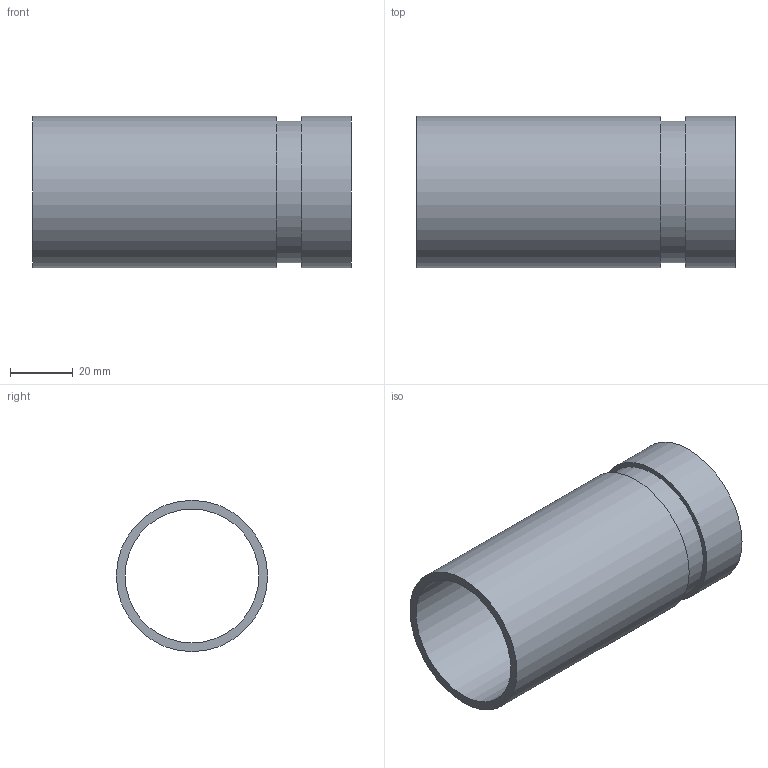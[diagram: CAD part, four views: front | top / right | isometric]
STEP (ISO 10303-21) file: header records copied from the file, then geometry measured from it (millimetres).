
FILE_DESCRIPTION(/* description */ ('VIC TRANSITION NIPPLE STYLE P577 (G X T)','CAx-IF Rec.Pracs.---Representation and Presentation of Product Manufacturing Information (PMI)---4.0---2014-10-13'),/* implementation_level */ '2;1');
FILE_NAME(/* name */ 'C:\Users\kkamble\AppData\Roaming\Autodesk\ApplicationPlugins\Back Up\Victaulic_SS-Vic-Press-TP 316_Nipple Transition_Style P577 (VPxPE)\Victaulic_SS-Vic-Press-TP 316_Nipple Transition_Style P577 (VPxPE)_1.5 (40).stp',/* time_stamp */ '2020-08-14T14:08:27+06:00',/* author */ ('cgray'),/* organization */ ('Victaulic'),/* preprocessor_version */ 'ST-DEVELOPER v17.2',/* originating_system */ 'Autodesk Inventor 2019',/* authorisation */ '');
FILE_SCHEMA (('AP242_MANAGED_MODEL_BASED_3D_ENGINEERING_MIM_LF { 1 0 10303 442 1 1 4 }'));
Length unit declared in the file: inch
Products named in the file (1): P577-01.5
Bounding box: 101.6 x 48.26 x 48.26 mm (x, y, z)
Volume: 38350.1 mm3; surface area: 30218 mm2
Topology: 1 solids, 1 shells, 8 faces, 20 edges, 16 vertices
Faces by surface type: cylinder 4, plane 4
Full cylindrical faces by diameter (mm): 42.723 x1, 45.085 x1, 48.26 x2
Entity records: 408 total; most frequent: DIRECTION 80, CARTESIAN_POINT 62, ORIENTED_EDGE 40, AXIS2_PLACEMENT_3D 38, EDGE_CURVE 20, CIRCLE 16, VERTEX_POINT 16, EDGE_LOOP 12
